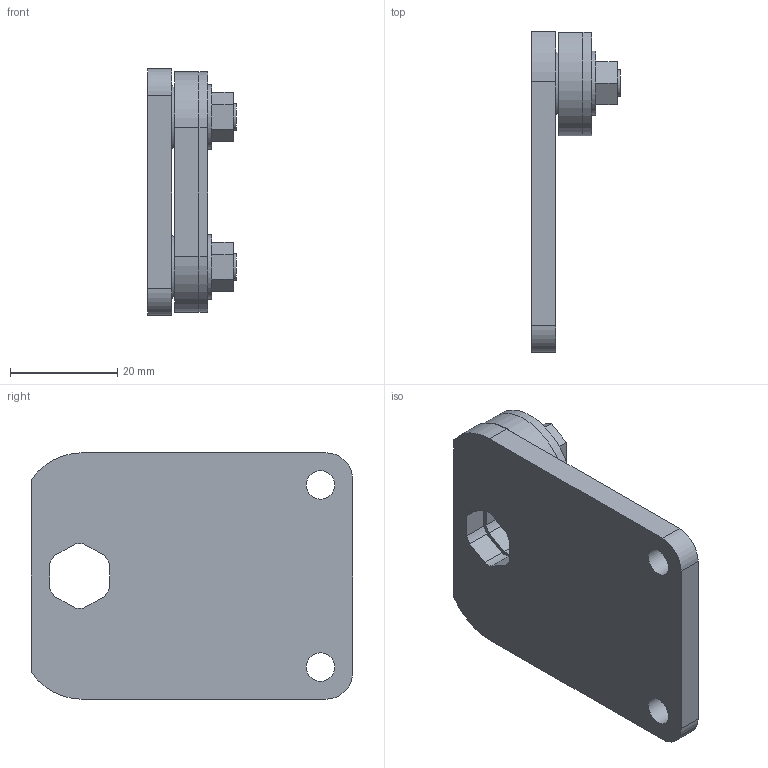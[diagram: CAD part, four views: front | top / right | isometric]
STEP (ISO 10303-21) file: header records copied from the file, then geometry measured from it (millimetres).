
FILE_DESCRIPTION(/* description */ (''),/* implementation_level */ '2;1');
FILE_NAME(/* name */ 'MBB-071.step',/* time_stamp */ '2022-11-01T16:59:16-04:00',/* author */ (''),/* organization */ (''),/* preprocessor_version */ 'ST-DEVELOPER v19.2',/* originating_system */ 'Autodesk Translation Framework v11.17.0.187',/* authorisation */ '');
FILE_SCHEMA (('AUTOMOTIVE_DESIGN { 1 0 10303 214 3 1 1 }'));
Length unit declared in the file: millimetre
Products named in the file (1): MBB-071
Bounding box: 16.6 x 60 x 46 mm (x, y, z)
Volume: 16592.4 mm3; surface area: 10889.2 mm2
Topology: 3 solids, 3 shells, 92 faces, 234 edges, 156 vertices
Faces by surface type: plane 52, cylinder 38, cone 2
Full cylindrical faces by diameter (mm): 2 x2, 4.2 x2, 5 x4, 5.3 x2, 12 x2
Entity records: 2993 total; most frequent: DIRECTION 500, CARTESIAN_POINT 483, ORIENTED_EDGE 468, EDGE_CURVE 234, AXIS2_PLACEMENT_3D 173, VERTEX_POINT 156, LINE 154, VECTOR 154
